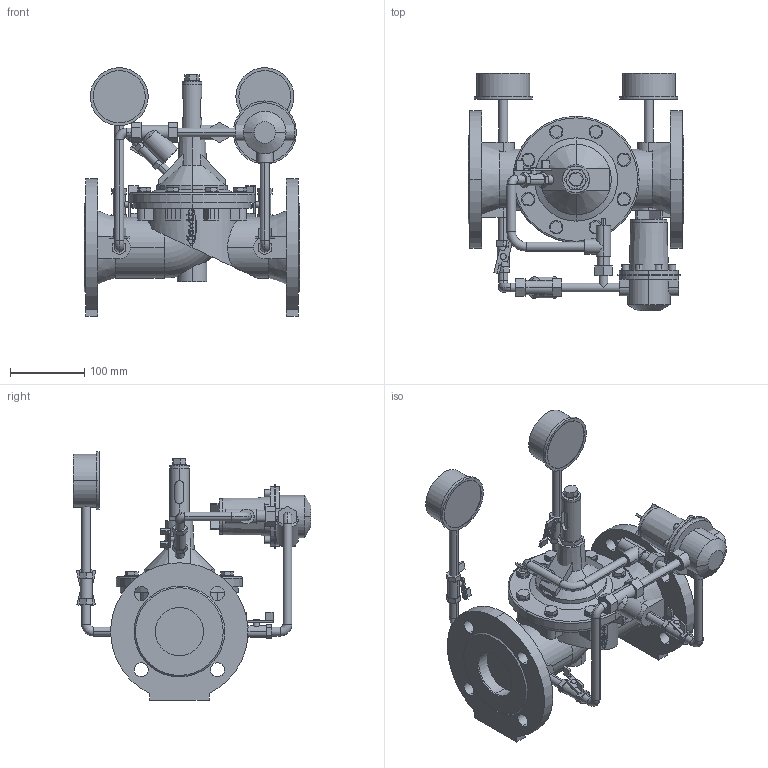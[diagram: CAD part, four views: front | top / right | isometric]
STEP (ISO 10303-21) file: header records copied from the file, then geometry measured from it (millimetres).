
FILE_DESCRIPTION(('STEP AP214'),'1');
FILE_NAME('S:/EK/USER/CAT6/3DHomepage_27-04-2012/CH-Produkte/1500/1500_PN16_DN65.STP','2013-01-18T08:37:37',(' '),(' '),'Spatial InterOp 3D',' ',' ');
FILE_SCHEMA(('automotive_design'));
Length unit declared in the file: millimetre
Products named in the file (172): 3D-Objekt
Bounding box: 290 x 320 x 334.5 mm (x, y, z)
Volume: 4264441.8 mm3; surface area: 671479.5 mm2
Topology: 172 solids, 172 shells, 1240 faces, 2685 edges, 1791 vertices
Faces by surface type: plane 871, cylinder 330, cone 21, torus 18
Entity records: 56699 total; most frequent: CARTESIAN_POINT 14938, DIRECTION 6237, ORIENTED_EDGE 5372, EDGE_CURVE 2686, AXIS2_PLACEMENT_3D 2171, LINE 1895, VECTOR 1895, VERTEX_POINT 1792
